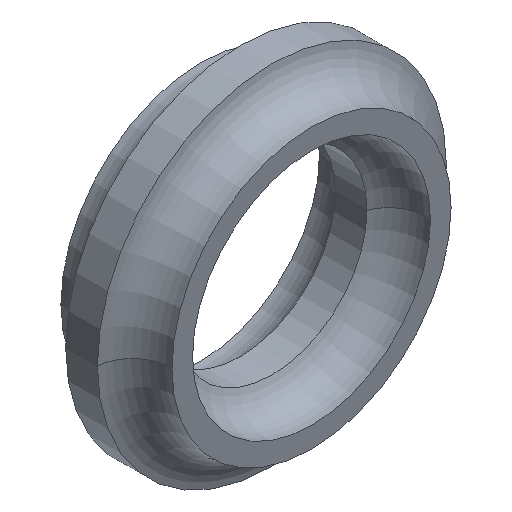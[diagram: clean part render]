
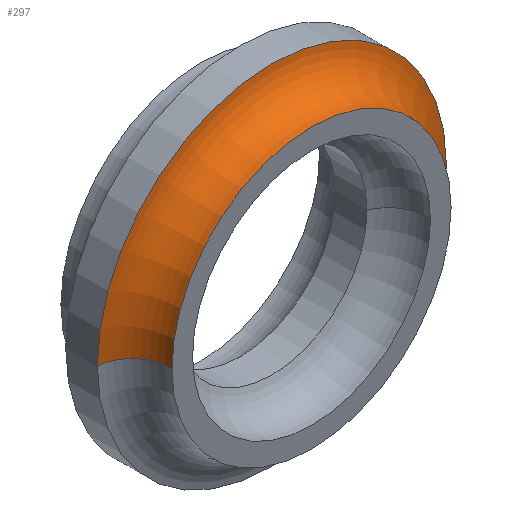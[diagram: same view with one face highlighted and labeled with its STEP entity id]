
A CAD part, isometric view. The second image highlights one B-rep face of the part: STEP entity #297.
In plain terms, the highlighted toroidal (fillet/blend) face has major radius 5.599 mm and minor radius 1.2 mm.
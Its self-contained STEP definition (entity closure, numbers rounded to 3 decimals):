
#81=CARTESIAN_POINT('',(0.,-1.75,0.));
#82=DIRECTION('',(0.,-1.,0.));
#83=DIRECTION('',(1.,0.,0.));
#84=AXIS2_PLACEMENT_3D('',#81,#82,#83);
#86=CARTESIAN_POINT('',(5.599,-1.696,0.));
#87=DIRECTION('',(0.,0.,-1.));
#88=DIRECTION('',(-0.999,-0.045,0.));
#89=AXIS2_PLACEMENT_3D('',#86,#87,#88);
#91=CARTESIAN_POINT('',(-5.599,-1.696,0.));
#92=DIRECTION('',(0.,0.,1.));
#93=DIRECTION('',(0.999,-0.045,0.));
#94=AXIS2_PLACEMENT_3D('',#91,#92,#93);
#114=CARTESIAN_POINT('',(0.,-0.5,0.));
#115=DIRECTION('',(0.,-1.,0.));
#116=DIRECTION('',(1.,0.,0.));
#117=AXIS2_PLACEMENT_3D('',#114,#115,#116);
#153=CARTESIAN_POINT('',(4.4,-1.75,0.));
#154=CARTESIAN_POINT('',(5.5,-0.5,0.));
#155=VERTEX_POINT('',#153);
#156=VERTEX_POINT('',#154);
#165=CARTESIAN_POINT('',(-4.4,-1.75,0.));
#166=CARTESIAN_POINT('',(-5.5,-0.5,0.));
#167=VERTEX_POINT('',#165);
#168=VERTEX_POINT('',#166);
#283=CARTESIAN_POINT('',(0.,-1.696,0.));
#284=DIRECTION('',(0.,-1.,0.));
#285=DIRECTION('',(-1.,0.,0.));
#286=AXIS2_PLACEMENT_3D('',#283,#284,#285);
#287=TOROIDAL_SURFACE('',#286,5.599,1.2);
#289=ORIENTED_EDGE('',*,*,#288,.F.);
#290=ORIENTED_EDGE('',*,*,#272,.T.);
#292=ORIENTED_EDGE('',*,*,#291,.T.);
#294=ORIENTED_EDGE('',*,*,#293,.F.);
#295=EDGE_LOOP('',(#289,#290,#292,#294));
#296=FACE_OUTER_BOUND('',#295,.F.);
#297=ADVANCED_FACE('',(#296),#287,.F.);
#85=CIRCLE('',#84,4.4);
#90=CIRCLE('',#89,1.2);
#95=CIRCLE('',#94,1.2);
#118=CIRCLE('',#117,5.5);
#272=EDGE_CURVE('',#155,#167,#85,.T.);
#288=EDGE_CURVE('',#155,#156,#90,.T.);
#291=EDGE_CURVE('',#167,#168,#95,.T.);
#293=EDGE_CURVE('',#156,#168,#118,.T.);
